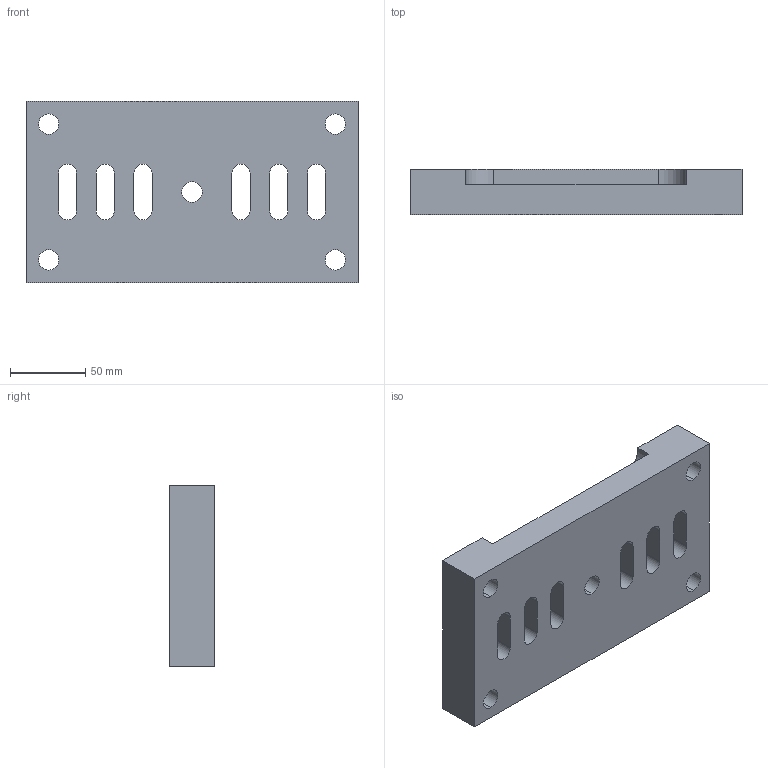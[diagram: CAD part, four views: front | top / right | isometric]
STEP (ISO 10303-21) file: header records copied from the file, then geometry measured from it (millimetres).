
FILE_DESCRIPTION (( 'STEP AP203' ), '1' );
FILE_NAME ('___CS02_01.STEP', '2025-06-10T12:33:04', ( '' ), ( '' ), 'SwSTEP 2.0', 'SolidWorks 2024', '' );
FILE_SCHEMA (( 'CONFIG_CONTROL_DESIGN' ));
Length unit declared in the file: millimetre
Products named in the file (1): ___CS02_01
Bounding box: 220 x 30 x 120 mm (x, y, z)
Volume: 601772.4 mm3; surface area: 89946.8 mm2
Topology: 1 solids, 1 shells, 87 faces, 234 edges, 156 vertices
Faces by surface type: cylinder 50, plane 37
Entity records: 2889 total; most frequent: DIRECTION 510, CARTESIAN_POINT 478, ORIENTED_EDGE 468, EDGE_CURVE 234, AXIS2_PLACEMENT_3D 188, VERTEX_POINT 156, LINE 134, VECTOR 134
